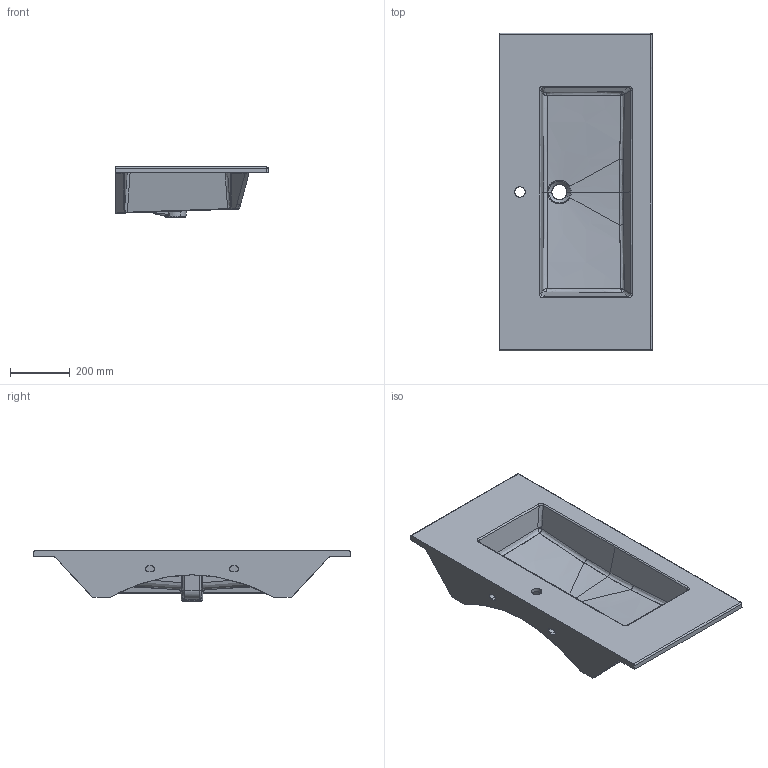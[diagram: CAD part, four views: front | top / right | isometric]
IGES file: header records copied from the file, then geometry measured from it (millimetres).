
Start section: START RECORD GO HERE.
Global section: file name: 3D Art 2033 Lav Panarea 106.igs; native system: IBM CATIA IGES - CATIA Version 5 Release 17 ; preprocessor: CATIA Version 5 Release 17 ; author: Luca; organization: PC-Luca; date: 20111219.124639; units: millimetre
Bounding box: 510.7 x 1061.4 x 167.4 mm (x, y, z)
Surface area: 1721653.8 mm2 (no closed solid volume)
Topology: 0 solids, 0 shells, 389 faces, 1828 edges, 1798 vertices
Faces by surface type: bspline 389
